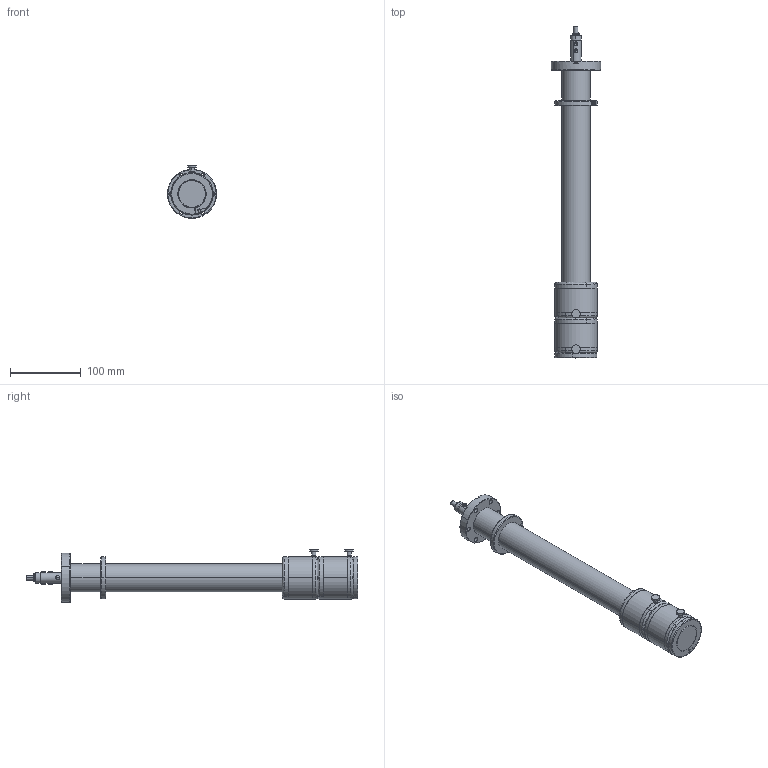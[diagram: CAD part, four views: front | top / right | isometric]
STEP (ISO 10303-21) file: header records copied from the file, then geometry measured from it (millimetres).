
FILE_DESCRIPTION(('CATIA V5 STEP Exchange'),'2;1');
FILE_NAME('W:\KONSTRUKTION\PRODUCTS\RMJG\RMJG40\RMJG40.stp','2016-11-25T11:10:17+00:00',('none'),('none'),'CATIA Version 5 Release 20 SP 7 (IN-10)','CATIA V5 STEP AP203','none');
FILE_SCHEMA(('CONFIG_CONTROL_DESIGN'));
Length unit declared in the file: millimetre
Products named in the file (5): RMJG40; LRRM; MKRMJG; MKRMA; TU40
Assembly tree (36 placements, depth 4):
  RMJG40
    LRRM  x2
      #66
      #821
    MKRMJG
      MKRMA  x2
        #1758
        #2539
        #2771
        #3065
        #7672
      #8634
    TU40
      #8824
      #9042
      #10358
    #10540
    #11434
    #12035
    #13666
    #14168  x8
    #14825
    #16008
Bounding box: 69.49 x 470 x 74.74 mm (x, y, z)
Volume: 280298.7 mm3; surface area: 249915.6 mm2
Topology: 66 solids, 66 shells, 1321 faces, 3028 edges, 1864 vertices
Faces by surface type: plane 650, cylinder 436, cone 155, torus 80
Entity records: 16464 total; most frequent: CARTESIAN_POINT 3875, ORIENTED_EDGE 2664, DIRECTION 2067, EDGE_CURVE 1332, AXIS2_PLACEMENT_3D 921, VERTEX_POINT 849, VECTOR 712, LINE 712
